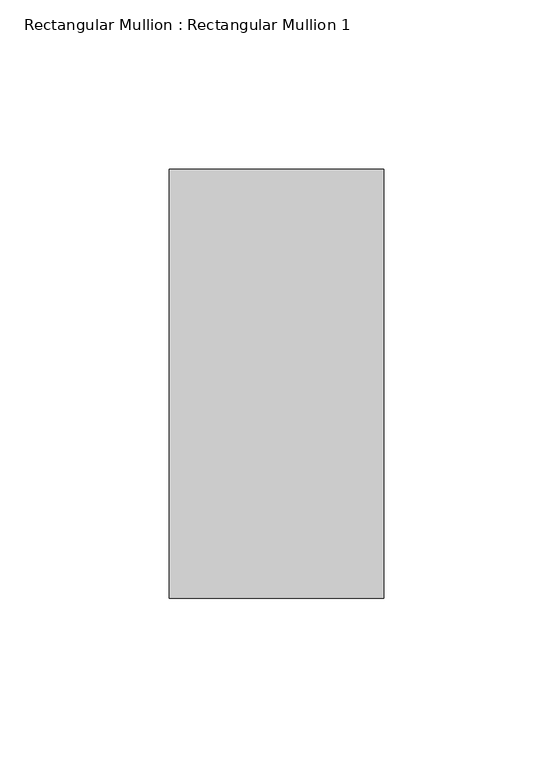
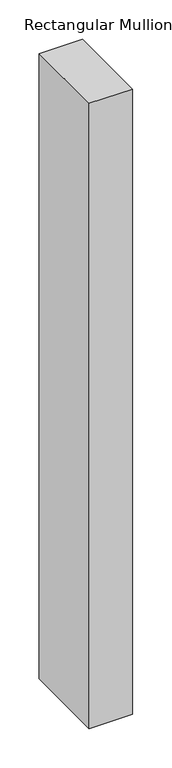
"""IFC4 building model written with IfcOpenShell, lengths in millimetres: member geometry, Rectangular Mullion : Rectangular Mullion 1."""

from ifc_helpers import new_model, si_unit, frame, origin, place, context, project, spatial, polyline, outline, extrude, source, transform, mapped, element, save


def rectangular_mullion_rectangular_mullion_1_4bdca6fb(model_context):
    return source(origin(), model_context, "Body", "SweptSolid", [
        extrude(outline(polyline([(0.0, 63.5), (0.0, -63.5), (-63.5, -63.5), (-63.5, 63.5), (0.0, 63.5)])), frame((0.0, 0.0, -968.2083536), z_axis=(0.0, 0.0, 1.0), x_axis=(1.0, 0.0, 0.0)), (0.0, 0.0, 1.0), 968.2083536),
    ])


if __name__ == "__main__":
    model = new_model("IFC4")
    model_context = context("Model", 3, world=origin())
    ifc_project = project(units=[si_unit("LENGTHUNIT", "METRE", prefix="MILLI")], contexts=[model_context])
    site = spatial("IfcSite", under=ifc_project)
    building = spatial("IfcBuilding", under=site)
    placement = place(None, origin())
    rectangular_mullion_rectangular_mullion_1_shape = rectangular_mullion_rectangular_mullion_1_4bdca6fb(model_context)
    element("IfcMember", 1, ObjectType="Rectangular Mullion : Rectangular Mullion 1", at=placement, inside=building, context=model_context, shape_type="MappedRepresentation", body=[
        mapped(rectangular_mullion_rectangular_mullion_1_shape, transform((0.0, 0.0, 0.0), x_axis=(1.0, 0.0, 0.0), y_axis=(0.0, 1.0, 0.0), z_axis=(0.0, 0.0, 1.0))),
    ])
    save(model, "model.ifc")
